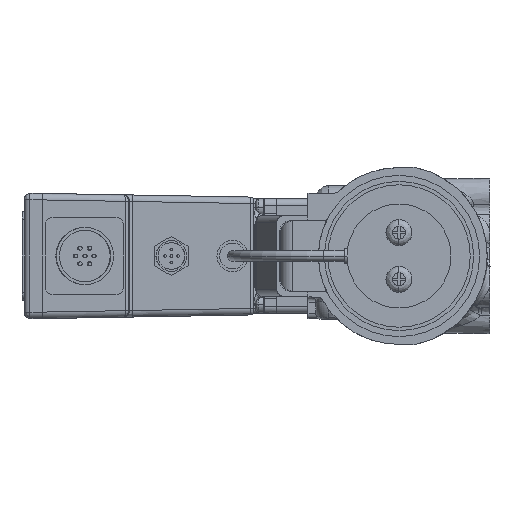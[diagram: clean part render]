
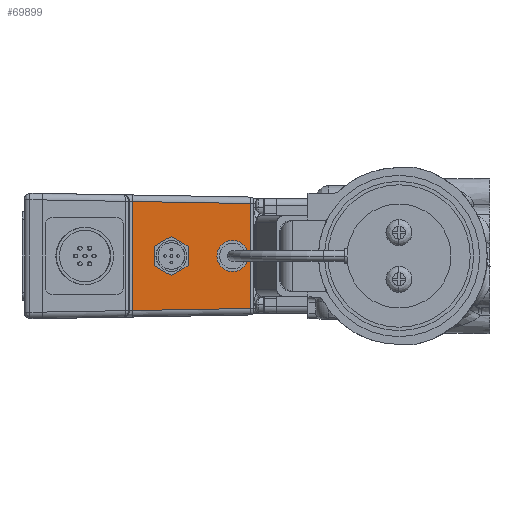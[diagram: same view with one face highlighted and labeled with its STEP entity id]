
A CAD part, left-side view. The second image highlights one B-rep face of the part: STEP entity #69899.
In plain terms, the highlighted planar face has unit normal (-1, -0.018, 0) as drawn and (1, 0, -0.017) by its records, which use the part's own axes.
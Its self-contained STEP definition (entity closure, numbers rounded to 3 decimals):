
#55526=CARTESIAN_POINT('',(78.674,-20.175,
9.983));
#55896=DIRECTION('',(0.,-1.,0.));
#55897=VECTOR('',#55896,40.349);
#55898=CARTESIAN_POINT('',(78.674,20.175,9.983));
#55899=LINE('',#55898,#55897);
#55903=DIRECTION('',(0.017,-0.017,1.));
#55904=VECTOR('',#55903,45.652);
#55905=CARTESIAN_POINT('',(78.674,-20.175,
9.983));
#55906=LINE('',#55905,#55904);
#55910=DIRECTION('',(0.,1.,0.));
#55911=VECTOR('',#55910,41.942);
#55912=CARTESIAN_POINT('',(79.471,-20.971,
55.62));
#55913=LINE('',#55912,#55911);
#55917=DIRECTION('',(-0.017,-0.017,-1.));
#55918=VECTOR('',#55917,45.652);
#55919=CARTESIAN_POINT('',(79.471,20.971,55.62));
#55920=LINE('',#55919,#55918);
#55924=DIRECTION('',(-0.015,-0.5,-0.866));
#55925=VECTOR('',#55924,5.774);
#55926=CARTESIAN_POINT('',(78.886,-2.887,
22.127));
#55927=LINE('',#55926,#55925);
#55931=DIRECTION('',(-0.015,0.5,-0.866));
#55932=VECTOR('',#55931,5.774);
#55933=CARTESIAN_POINT('',(78.799,-5.774,
17.127));
#55934=LINE('',#55933,#55932);
#55938=DIRECTION('',(0.,1.,0.));
#55939=VECTOR('',#55938,5.774);
#55940=CARTESIAN_POINT('',(78.712,-2.887,
12.128));
#55941=LINE('',#55940,#55939);
#55945=DIRECTION('',(0.015,0.5,0.866));
#55946=VECTOR('',#55945,5.774);
#55947=CARTESIAN_POINT('',(78.712,2.887,12.128));
#55948=LINE('',#55947,#55946);
#55952=DIRECTION('',(0.015,-0.5,0.866));
#55953=VECTOR('',#55952,5.774);
#55954=CARTESIAN_POINT('',(78.799,5.774,17.127));
#55955=LINE('',#55954,#55953);
#55959=DIRECTION('',(0.,-1.,0.));
#55960=VECTOR('',#55959,5.774);
#55961=CARTESIAN_POINT('',(78.886,2.887,22.127));
#55962=LINE('',#55961,#55960);
#55966=DIRECTION('',(-0.015,-0.5,-0.866));
#55967=VECTOR('',#55966,7.506);
#55968=CARTESIAN_POINT('',(79.323,-3.753,
47.123));
#55969=LINE('',#55968,#55967);
#55973=DIRECTION('',(-0.015,0.5,-0.866));
#55974=VECTOR('',#55973,7.506);
#55975=CARTESIAN_POINT('',(79.209,-7.506,
40.624));
#55976=LINE('',#55975,#55974);
#55980=DIRECTION('',(0.,1.,0.));
#55981=VECTOR('',#55980,7.506);
#55982=CARTESIAN_POINT('',(79.096,-3.753,
34.125));
#55983=LINE('',#55982,#55981);
#55987=DIRECTION('',(0.015,0.5,0.866));
#55988=VECTOR('',#55987,7.506);
#55989=CARTESIAN_POINT('',(79.096,3.753,34.125));
#55990=LINE('',#55989,#55988);
#55994=DIRECTION('',(0.015,-0.5,0.866));
#55995=VECTOR('',#55994,7.506);
#55996=CARTESIAN_POINT('',(79.209,7.506,40.624));
#55997=LINE('',#55996,#55995);
#56001=DIRECTION('',(0.,-1.,0.));
#56002=VECTOR('',#56001,7.506);
#56003=CARTESIAN_POINT('',(79.323,3.753,47.123));
#56004=LINE('',#56003,#56002);
#59831=CARTESIAN_POINT('',(79.471,-20.971,
55.62));
#59832=CARTESIAN_POINT('',(79.471,20.971,55.62));
#59833=VERTEX_POINT('',#59831);
#59834=VERTEX_POINT('',#59832);
#59842=VERTEX_POINT('',#55526);
#59845=CARTESIAN_POINT('',(78.674,20.175,9.983));
#59846=VERTEX_POINT('',#59845);
#60609=CARTESIAN_POINT('',(78.886,-2.887,
22.127));
#60610=CARTESIAN_POINT('',(78.799,-5.774,
17.127));
#60611=VERTEX_POINT('',#60609);
#60612=VERTEX_POINT('',#60610);
#60613=CARTESIAN_POINT('',(78.712,-2.887,
12.128));
#60614=VERTEX_POINT('',#60613);
#60615=CARTESIAN_POINT('',(78.712,2.887,12.128));
#60616=VERTEX_POINT('',#60615);
#60617=CARTESIAN_POINT('',(78.799,5.774,17.127));
#60618=VERTEX_POINT('',#60617);
#60619=CARTESIAN_POINT('',(78.886,2.887,22.127));
#60620=VERTEX_POINT('',#60619);
#60633=CARTESIAN_POINT('',(79.323,-3.753,
47.123));
#60634=CARTESIAN_POINT('',(79.209,-7.506,
40.624));
#60635=VERTEX_POINT('',#60633);
#60636=VERTEX_POINT('',#60634);
#60637=CARTESIAN_POINT('',(79.096,-3.753,
34.125));
#60638=VERTEX_POINT('',#60637);
#60639=CARTESIAN_POINT('',(79.096,3.753,34.125));
#60640=VERTEX_POINT('',#60639);
#60641=CARTESIAN_POINT('',(79.209,7.506,40.624));
#60642=VERTEX_POINT('',#60641);
#60643=CARTESIAN_POINT('',(79.323,3.753,47.123));
#60644=VERTEX_POINT('',#60643);
#69859=CARTESIAN_POINT('',(78.5,-22.62,0.));
#69860=DIRECTION('',(-1.,0.,0.017));
#69861=DIRECTION('',(0.,-1.,0.));
#69862=AXIS2_PLACEMENT_3D('',#69859,#69860,#69861);
#69863=PLANE('',#69862);
#69864=ORIENTED_EDGE('',*,*,#69853,.T.);
#69865=ORIENTED_EDGE('',*,*,#69165,.T.);
#69867=ORIENTED_EDGE('',*,*,#69866,.T.);
#69868=ORIENTED_EDGE('',*,*,#69722,.T.);
#69869=EDGE_LOOP('',(#69864,#69865,#69867,#69868));
#69870=FACE_OUTER_BOUND('',#69869,.F.);
#69872=ORIENTED_EDGE('',*,*,#69871,.T.);
#69874=ORIENTED_EDGE('',*,*,#69873,.T.);
#69876=ORIENTED_EDGE('',*,*,#69875,.T.);
#69878=ORIENTED_EDGE('',*,*,#69877,.T.);
#69880=ORIENTED_EDGE('',*,*,#69879,.T.);
#69882=ORIENTED_EDGE('',*,*,#69881,.T.);
#69883=EDGE_LOOP('',(#69872,#69874,#69876,#69878,#69880,#69882));
#69884=FACE_BOUND('',#69883,.F.);
#69886=ORIENTED_EDGE('',*,*,#69885,.T.);
#69888=ORIENTED_EDGE('',*,*,#69887,.T.);
#69890=ORIENTED_EDGE('',*,*,#69889,.T.);
#69892=ORIENTED_EDGE('',*,*,#69891,.T.);
#69894=ORIENTED_EDGE('',*,*,#69893,.T.);
#69896=ORIENTED_EDGE('',*,*,#69895,.T.);
#69897=EDGE_LOOP('',(#69886,#69888,#69890,#69892,#69894,#69896));
#69898=FACE_BOUND('',#69897,.F.);
#69165=EDGE_CURVE('',#59842,#59833,#55906,.T.);
#69722=EDGE_CURVE('',#59834,#59846,#55920,.T.);
#69853=EDGE_CURVE('',#59846,#59842,#55899,.T.);
#69866=EDGE_CURVE('',#59833,#59834,#55913,.T.);
#69871=EDGE_CURVE('',#60611,#60612,#55927,.T.);
#69873=EDGE_CURVE('',#60612,#60614,#55934,.T.);
#69875=EDGE_CURVE('',#60614,#60616,#55941,.T.);
#69877=EDGE_CURVE('',#60616,#60618,#55948,.T.);
#69879=EDGE_CURVE('',#60618,#60620,#55955,.T.);
#69881=EDGE_CURVE('',#60620,#60611,#55962,.T.);
#69885=EDGE_CURVE('',#60635,#60636,#55969,.T.);
#69887=EDGE_CURVE('',#60636,#60638,#55976,.T.);
#69889=EDGE_CURVE('',#60638,#60640,#55983,.T.);
#69891=EDGE_CURVE('',#60640,#60642,#55990,.T.);
#69893=EDGE_CURVE('',#60642,#60644,#55997,.T.);
#69895=EDGE_CURVE('',#60644,#60635,#56004,.T.);
#69899=ADVANCED_FACE('',(#69870,#69884,#69898),#69863,.F.);
